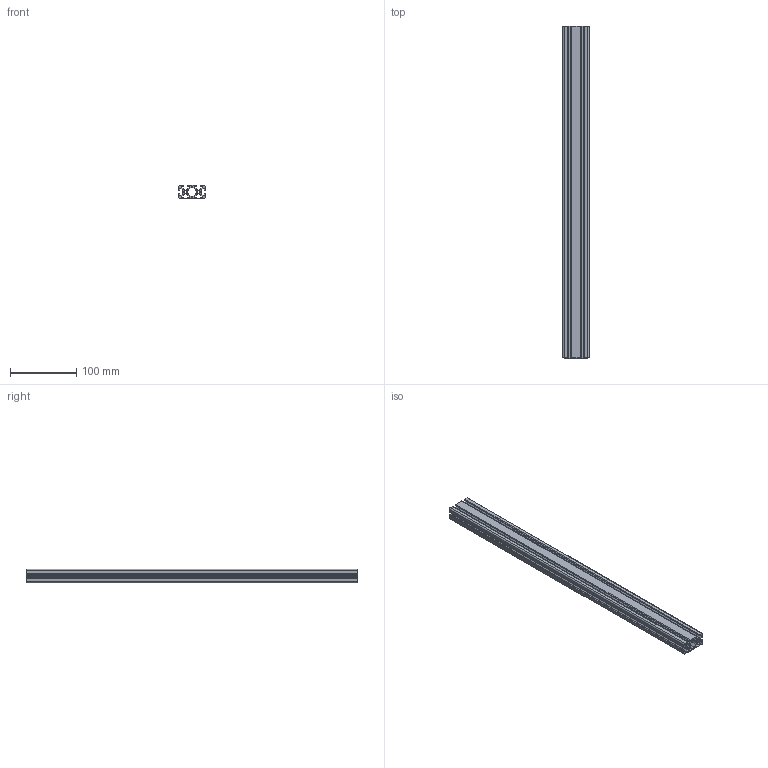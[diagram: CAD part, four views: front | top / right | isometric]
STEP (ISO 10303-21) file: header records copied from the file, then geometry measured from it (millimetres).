
FILE_DESCRIPTION (( 'STEP AP203' ), '1' );
FILE_NAME ('RP4071.STEP', '2026-05-12T13:50:33', ( '' ), ( '' ), 'SwSTEP 2.0', 'SolidWorks 2026', '' );
FILE_SCHEMA (( 'CONFIG_CONTROL_DESIGN' ));
Length unit declared in the file: millimetre
Products named in the file (1): RP4071
Bounding box: 40 x 500 x 20 mm (x, y, z)
Volume: 168331 mm3; surface area: 162550.1 mm2
Topology: 1 solids, 1 shells, 122 faces, 360 edges, 240 vertices
Faces by surface type: cylinder 62, plane 60
Entity records: 4205 total; most frequent: DIRECTION 730, CARTESIAN_POINT 723, ORIENTED_EDGE 720, EDGE_CURVE 360, AXIS2_PLACEMENT_3D 247, VERTEX_POINT 240, VECTOR 236, LINE 236
